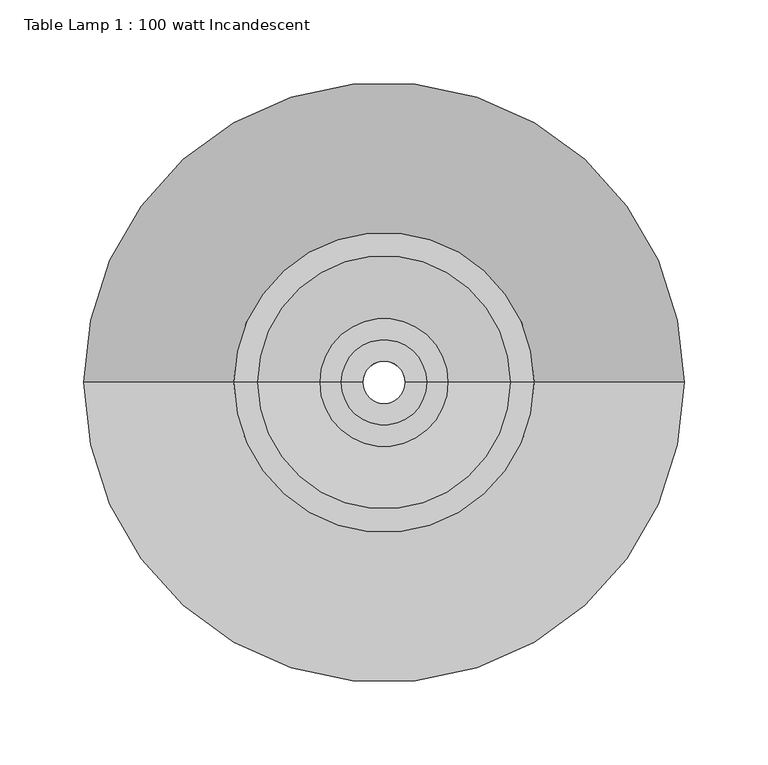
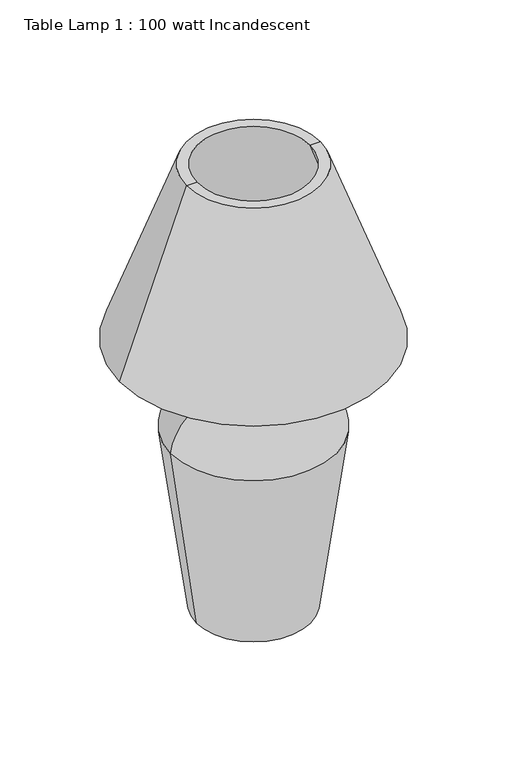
"""IFC4 building model written with IfcOpenShell, lengths in millimetres: light fixture geometry, Table Lamp 1 : 100 watt Incandescent."""

from ifc_helpers import new_model, si_unit, point, frame, origin, origin_with_axes, place, context, project, spatial, polyline, circle_curve, ellipse_curve, trimmed, source, transform, mapped, element, save
from ifc_brep_helpers import plane_surface, cylinder_surface, revolved_surface, advanced_brep


def table_lamp_1_100_watt_incandescent_b33ea945(model_context):
    return source(origin(), model_context, "Body", "AdvancedBrep", [
        advanced_brep(
        [(-164.7317588, 0.0, 376.8232721), (-75.4334235, 0.0, 622.168432), (75.4334235, 0.0, 622.168432), (164.7317588, 0.0, 376.8232721), (-178.6712043, 0.0, 376.8232721), (178.6712043, 0.0, 376.8232721), (-89.372869, 0.0, 622.168432), (89.372869, 0.0, 622.168432)],
        [
            (0, 1),
            (1, 2, circle_curve(frame((0.0, 0.0, 622.168432), z_axis=(0.0, 0.0, 1.0), x_axis=(1.0, 0.0, 0.0)), 75.4334235)),
            (2, 3),
            (3, 0, circle_curve(frame((0.0, 0.0, 376.8232721), z_axis=(0.0, 0.0, -1.0), x_axis=(1.0, 0.0, 0.0)), 164.7317588)),
            (2, 1, circle_curve(frame((0.0, 0.0, 622.168432), z_axis=(0.0, 0.0, 1.0), x_axis=(1.0, 0.0, 0.0)), 75.4334235)),
            (0, 3, circle_curve(frame((0.0, 0.0, 376.8232721), z_axis=(0.0, 0.0, -1.0), x_axis=(1.0, 0.0, 0.0)), 164.7317588)),
            (4, 0),
            (3, 5),
            (5, 4, circle_curve(frame((0.0, 0.0, 376.8232721), z_axis=(0.0, 0.0, -1.0), x_axis=(1.0, 0.0, 0.0)), 178.6712043)),
            (4, 5, circle_curve(frame((0.0, 0.0, 376.8232721), z_axis=(0.0, 0.0, -1.0), x_axis=(1.0, 0.0, 0.0)), 178.6712043)),
            (6, 4),
            (5, 7),
            (7, 6, circle_curve(frame((0.0, 0.0, 622.168432), z_axis=(0.0, 0.0, -1.0), x_axis=(1.0, 0.0, 0.0)), 89.372869)),
            (6, 7, circle_curve(frame((0.0, 0.0, 622.168432), z_axis=(0.0, 0.0, -1.0), x_axis=(1.0, 0.0, 0.0)), 89.372869)),
            (1, 6),
            (7, 2),
        ],
        [
            revolved_surface(polyline([(75.4334235, 0.0, 622.168432), (164.7317588, 0.0, 376.8232721)]), (0.0, 0.0, 736.6), (0.0, 0.0, 1.0)),
            plane_surface(frame((0.0, 0.0, 376.8232721), z_axis=(0.0, 0.0, -1.0), x_axis=(1.0, 0.0, 0.0))),
            revolved_surface(polyline([(178.6712043, 0.0, 376.8232721), (89.372869, 0.0, 622.168432)]), (0.0, 0.0, 736.6), (0.0, 0.0, 1.0)),
            plane_surface(frame((0.0, 0.0, 622.168432), z_axis=(0.0, 0.0, 1.0), x_axis=(1.0, 0.0, 0.0))),
        ],
        [
            (0, [[1, 2, 3, 4]]),
            (0, [[-3, 5, -1, 6]]),
            (1, [[7, -4, 8, 9]]),
            (1, [[-8, -6, -7, 10]]),
            (2, [[11, -9, 12, 13]]),
            (2, [[-12, -10, -11, 14]]),
            (3, [[15, -13, 16, -2]]),
            (3, [[-16, -14, -15, -5]]),
        ],
    ),
        advanced_brep(
        [(-25.4, 0.0, 363.9152112), (-25.4, 0.0, 338.5152112), (25.4, 0.0, 338.5152112), (25.4, 0.0, 363.9152112), (-12.7, 0.0, 363.9152112), (12.7, 0.0, 363.9152112), (-12.7, 0.0, 338.5152112), (12.7, 0.0, 338.5152112)],
        [
            (0, 1),
            (1, 2, circle_curve(frame((0.0, 0.0, 338.5152112), z_axis=(0.0, 0.0, 1.0), x_axis=(1.0, 0.0, 0.0)), 25.4)),
            (2, 3),
            (3, 0, circle_curve(frame((0.0, 0.0, 363.9152112), z_axis=(0.0, 0.0, -1.0), x_axis=(1.0, 0.0, 0.0)), 25.4)),
            (2, 1, circle_curve(frame((0.0, 0.0, 338.5152112), z_axis=(0.0, 0.0, 1.0), x_axis=(1.0, 0.0, 0.0)), 25.4)),
            (0, 3, circle_curve(frame((0.0, 0.0, 363.9152112), z_axis=(0.0, 0.0, -1.0), x_axis=(1.0, 0.0, 0.0)), 25.4)),
            (4, 0),
            (3, 5),
            (5, 4, circle_curve(frame((0.0, 0.0, 363.9152112), z_axis=(0.0, 0.0, -1.0), x_axis=(1.0, 0.0, 0.0)), 12.7)),
            (4, 5, circle_curve(frame((0.0, 0.0, 363.9152112), z_axis=(0.0, 0.0, -1.0), x_axis=(1.0, 0.0, 0.0)), 12.7)),
            (6, 4),
            (5, 7),
            (7, 6, circle_curve(frame((0.0, 0.0, 338.5152112), z_axis=(0.0, 0.0, -1.0), x_axis=(1.0, 0.0, 0.0)), 12.7)),
            (6, 7, circle_curve(frame((0.0, 0.0, 338.5152112), z_axis=(0.0, 0.0, -1.0), x_axis=(1.0, 0.0, 0.0)), 12.7)),
            (1, 6),
            (7, 2),
        ],
        [
            cylinder_surface(frame((0.0, 0.0, 457.2), z_axis=(0.0, 0.0, 1.0), x_axis=(1.0, 0.0, 0.0)), 25.4),
            plane_surface(frame((0.0, 0.0, 363.9152112), z_axis=(0.0, 0.0, 1.0), x_axis=(1.0, 0.0, 0.0))),
            revolved_surface(polyline([(12.7, 0.0, 363.9152112), (12.7, 0.0, 338.5152112)]), (0.0, 0.0, 457.2), (0.0, 0.0, 1.0)),
            plane_surface(frame((0.0, 0.0, 338.5152112), z_axis=(0.0, 0.0, -1.0), x_axis=(1.0, 0.0, 0.0))),
        ],
        [
            (0, [[1, 2, 3, 4]]),
            (0, [[-3, 5, -1, 6]]),
            (1, [[7, -4, 8, 9]]),
            (1, [[-8, -6, -7, 10]]),
            (2, [[11, -9, 12, 13]]),
            (2, [[-12, -10, -11, 14]]),
            (3, [[15, -13, 16, -2]]),
            (3, [[-16, -14, -15, -5]]),
        ],
    ),
        advanced_brep(
        [(-38.1, 0.0, 300.4152112), (-12.7, 0.0, 300.4152112), (12.7, 0.0, 300.4152112), (38.1, 0.0, 300.4152112), (-38.1, 0.0, 338.5152112), (38.1, 0.0, 338.5152112), (-12.7, 0.0, 338.5152112), (12.7, 0.0, 338.5152112)],
        [
            (0, 1),
            (1, 2, circle_curve(frame((0.0, 0.0, 300.4152112), z_axis=(0.0, 0.0, 1.0), x_axis=(1.0, 0.0, 0.0)), 12.7)),
            (2, 3),
            (3, 0, circle_curve(frame((0.0, 0.0, 300.4152112), z_axis=(0.0, 0.0, -1.0), x_axis=(1.0, 0.0, 0.0)), 38.1)),
            (2, 1, circle_curve(frame((0.0, 0.0, 300.4152112), z_axis=(0.0, 0.0, 1.0), x_axis=(1.0, 0.0, 0.0)), 12.7)),
            (0, 3, circle_curve(frame((0.0, 0.0, 300.4152112), z_axis=(0.0, 0.0, -1.0), x_axis=(1.0, 0.0, 0.0)), 38.1)),
            (4, 0),
            (3, 5),
            (5, 4, circle_curve(frame((0.0, 0.0, 338.5152112), z_axis=(0.0, 0.0, -1.0), x_axis=(1.0, 0.0, 0.0)), 38.1)),
            (4, 5, circle_curve(frame((0.0, 0.0, 338.5152112), z_axis=(0.0, 0.0, -1.0), x_axis=(1.0, 0.0, 0.0)), 38.1)),
            (6, 4),
            (5, 7),
            (7, 6, circle_curve(frame((0.0, 0.0, 338.5152112), z_axis=(0.0, 0.0, -1.0), x_axis=(1.0, 0.0, 0.0)), 12.7)),
            (6, 7, circle_curve(frame((0.0, 0.0, 338.5152112), z_axis=(0.0, 0.0, -1.0), x_axis=(1.0, 0.0, 0.0)), 12.7)),
            (1, 6),
            (7, 2),
        ],
        [
            plane_surface(frame((0.0, 0.0, 300.4152112), z_axis=(0.0, 0.0, -1.0), x_axis=(1.0, 0.0, 0.0))),
            cylinder_surface(frame((0.0, 0.0, 431.8), z_axis=(0.0, 0.0, 1.0), x_axis=(1.0, 0.0, 0.0)), 38.1),
            plane_surface(frame((0.0, 0.0, 338.5152112), z_axis=(0.0, 0.0, 1.0), x_axis=(1.0, 0.0, 0.0))),
            revolved_surface(polyline([(12.7, 0.0, 338.5152112), (12.7, 0.0, 300.4152112)]), (0.0, 0.0, 431.8), (0.0, 0.0, 1.0)),
        ],
        [
            (0, [[1, 2, 3, 4]]),
            (0, [[-3, 5, -1, 6]]),
            (1, [[7, -4, 8, 9]]),
            (1, [[-8, -6, -7, 10]]),
            (2, [[11, -9, 12, 13]]),
            (2, [[-12, -10, -11, 14]]),
            (3, [[15, -13, 16, -2]]),
            (3, [[-16, -14, -15, -5]]),
        ],
    ),
        advanced_brep(
        [(-110.728718, 0.0, 251.659832), (-76.2, 0.0, 0.0), (76.2, 0.0, 0.0), (110.728718, 0.0, 251.659832), (-38.1, 0.0, 310.9616106), (38.1, 0.0, 310.9616106), (-38.1, 0.0, 300.4152112), (38.1, 0.0, 300.4152112), (-98.1869356, 0.0, 253.725236), (98.1869356, 0.0, 253.725236), (-65.5434347, 0.0, 12.7), (65.5434347, 0.0, 12.7), (-12.7, 0.0, 12.7), (12.7, 0.0, 12.7), (-12.7, 0.0, 0.0), (12.7, 0.0, 0.0)],
        [
            (0, 1),
            (1, 2, circle_curve(origin_with_axes(), 76.2)),
            (2, 3),
            (3, 0, circle_curve(frame((0.0, 0.0, 251.659832), z_axis=(0.0, 0.0, -1.0), x_axis=(1.0, 0.0, 0.0)), 110.728718)),
            (2, 1, circle_curve(origin_with_axes(), 76.2)),
            (0, 3, circle_curve(frame((0.0, 0.0, 251.659832), z_axis=(0.0, 0.0, -1.0), x_axis=(1.0, 0.0, 0.0)), 110.728718)),
            (4, 0, circle_curve(frame((-44.5301031, 0.0, 244.710551), z_axis=(0.0, -1.0, 0.0), x_axis=(-1.0, 0.0, 0.0)), 66.5623702)),
            (3, 5, circle_curve(frame((44.5301031, 0.0, 244.710551), z_axis=(0.0, -1.0, 0.0), x_axis=(1.0, 0.0, 0.0)), 66.5623702)),
            (5, 4, circle_curve(frame((0.0, 0.0, 310.9616106), z_axis=(0.0, 0.0, -1.0), x_axis=(1.0, 0.0, 0.0)), 38.1)),
            (4, 5, circle_curve(frame((0.0, 0.0, 310.9616106), z_axis=(0.0, 0.0, -1.0), x_axis=(1.0, 0.0, 0.0)), 38.1)),
            (6, 4),
            (5, 7),
            (7, 6, circle_curve(frame((0.0, 0.0, 300.4152112), z_axis=(0.0, 0.0, -1.0), x_axis=(1.0, 0.0, 0.0)), 38.1)),
            (6, 7, circle_curve(frame((0.0, 0.0, 300.4152112), z_axis=(0.0, 0.0, -1.0), x_axis=(1.0, 0.0, 0.0)), 38.1)),
            (8, 6, circle_curve(frame((-44.5301031, 0.0, 246.6813721), z_axis=(0.0, 1.0, 0.0), x_axis=(-1.0, 0.0, 0.0)), 54.1172033)),
            (7, 9, circle_curve(frame((44.5301031, 0.0, 246.6813721), z_axis=(0.0, 1.0, 0.0), x_axis=(1.0, 0.0, 0.0)), 54.1172033)),
            (9, 8, circle_curve(frame((0.0, 0.0, 253.725236), z_axis=(0.0, 0.0, -1.0), x_axis=(1.0, 0.0, 0.0)), 98.1869356)),
            (8, 9, circle_curve(frame((0.0, 0.0, 253.725236), z_axis=(0.0, 0.0, -1.0), x_axis=(1.0, 0.0, 0.0)), 98.1869356)),
            (10, 8),
            (9, 11),
            (11, 10, circle_curve(frame((0.0, 0.0, 12.7), z_axis=(0.0, 0.0, -1.0), x_axis=(1.0, 0.0, 0.0)), 65.5434347)),
            (10, 11, circle_curve(frame((0.0, 0.0, 12.7), z_axis=(0.0, 0.0, -1.0), x_axis=(1.0, 0.0, 0.0)), 65.5434347)),
            (12, 10),
            (11, 13),
            (13, 12, circle_curve(frame((0.0, 0.0, 12.7), z_axis=(0.0, 0.0, -1.0), x_axis=(1.0, 0.0, 0.0)), 12.7)),
            (12, 13, circle_curve(frame((0.0, 0.0, 12.7), z_axis=(0.0, 0.0, -1.0), x_axis=(1.0, 0.0, 0.0)), 12.7)),
            (14, 12),
            (13, 15),
            (15, 14, circle_curve(frame((0.0, 0.0, 0.0), z_axis=(0.0, 0.0, -1.0), x_axis=(1.0, 0.0, 0.0)), 12.7)),
            (14, 15, circle_curve(frame((0.0, 0.0, 0.0), z_axis=(0.0, 0.0, -1.0), x_axis=(1.0, 0.0, 0.0)), 12.7)),
            (1, 14),
            (15, 2),
        ],
        [
            revolved_surface(polyline([(76.2, 0.0, 0.0), (110.728718, 0.0, 251.659832)]), (0.0, 0.0, -50.8), (0.0, 0.0, 1.0)),
            revolved_surface(trimmed(ellipse_curve(frame((44.5301031, 0.0, 244.710551), z_axis=(0.0, -1.0, 0.0), x_axis=(1.0, 0.0, 0.0)), 66.5623702, 66.5623702), [point((110.728718, 0.0, 251.659832))], [point((38.1, 0.0, 310.9616106))], True, "CARTESIAN"), (0.0, 0.0, -50.8), (0.0, 0.0, 1.0)),
            revolved_surface(polyline([(38.1, 0.0, 310.9616106), (38.1, 0.0, 300.4152112)]), (0.0, 0.0, -50.8), (0.0, 0.0, 1.0)),
            revolved_surface(trimmed(ellipse_curve(frame((44.5301031, 0.0, 246.6813721), z_axis=(0.0, 1.0, 0.0), x_axis=(1.0, 0.0, 0.0)), 54.1172033, 54.1172033), [point((38.1, 0.0, 300.4152112))], [point((98.1869356, 0.0, 253.725236))], True, "CARTESIAN"), (0.0, 0.0, -50.8), (0.0, 0.0, 1.0)),
            revolved_surface(polyline([(98.1869356, 0.0, 253.725236), (65.5434347, 0.0, 12.7)]), (0.0, 0.0, -50.8), (0.0, 0.0, 1.0)),
            plane_surface(frame((0.0, 0.0, 12.7), z_axis=(0.0, 0.0, 1.0), x_axis=(1.0, 0.0, 0.0))),
            revolved_surface(polyline([(12.7, 0.0, 12.700000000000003), (12.7, 0.0, 0.0)]), (0.0, 0.0, -50.8), (0.0, 0.0, 1.0)),
            plane_surface(frame((0.0, 0.0, 0.0), z_axis=(0.0, 0.0, -1.0), x_axis=(1.0, 0.0, 0.0))),
        ],
        [
            (0, [[1, 2, 3, 4]]),
            (0, [[-3, 5, -1, 6]]),
            (1, [[7, -4, 8, 9]]),
            (1, [[-8, -6, -7, 10]]),
            (2, [[11, -9, 12, 13]]),
            (2, [[-12, -10, -11, 14]]),
            (3, [[15, -13, 16, 17]]),
            (3, [[-16, -14, -15, 18]]),
            (4, [[19, -17, 20, 21]]),
            (4, [[-20, -18, -19, 22]]),
            (5, [[23, -21, 24, 25]]),
            (5, [[-24, -22, -23, 26]]),
            (6, [[27, -25, 28, 29]]),
            (6, [[-28, -26, -27, 30]]),
            (7, [[31, -29, 32, -2]]),
            (7, [[-32, -30, -31, -5]]),
        ],
    ),
    ])


if __name__ == "__main__":
    model = new_model("IFC4")
    model_context = context("Model", 3, world=origin())
    ifc_project = project(units=[si_unit("LENGTHUNIT", "METRE", prefix="MILLI")], contexts=[model_context])
    site = spatial("IfcSite", under=ifc_project)
    building = spatial("IfcBuilding", under=site)
    placement = place(None, origin())
    table_lamp_1_100_watt_incandescent_shape = table_lamp_1_100_watt_incandescent_b33ea945(model_context)
    element("IfcLightFixture", 1, ObjectType="Table Lamp 1 : 100 watt Incandescent", at=placement, inside=building, context=model_context, shape_type="MappedRepresentation", body=[
        mapped(table_lamp_1_100_watt_incandescent_shape, transform((0.0, 0.0, 0.0), x_axis=(1.0, 0.0, 0.0), y_axis=(0.0, 1.0, 0.0), z_axis=(0.0, 0.0, 1.0))),
    ])
    save(model, "model.ifc")
